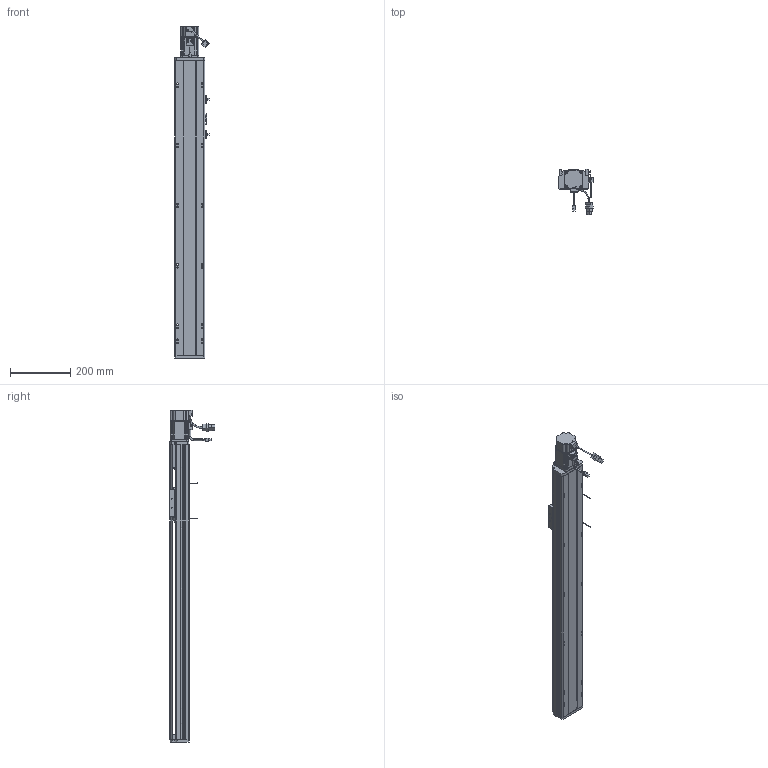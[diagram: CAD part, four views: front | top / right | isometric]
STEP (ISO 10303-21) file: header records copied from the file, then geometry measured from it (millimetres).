
FILE_DESCRIPTION (( 'STEP AP214' ), '1' );
FILE_NAME ('CTH10-750.STEP', '2019-11-18T08:14:24', ( '微软用户' ), ( '微软中国' ), 'SwSTEP 2.0', 'SolidWorks 2017', '' );
FILE_SCHEMA (( 'AUTOMOTIVE_DESIGN' ));
Length unit declared in the file: millimetre
Products named in the file (34): CTH10-750; CTH10-底座_默认<按加工>; CTH10-移动座_默认<按加工>; CTH10-蹟簽蟀諉啣; CTH10-盓傅釱; CTH10-傷啣; CTH10-侜督萇儂啣; SFH1605-288; SFH1605; CTH10-盖板_默认<按加工>; 怢湛200W侜督萇儂ECMA-CX0602ES; CTH10-粣創釱; BEARING_BaseModel20190604090351; 7001-DF; 粣創揤啣; COL12B-粣遠; 坶踡蹟譫; M4-L8囀鞠褒蹟佪; M3-L10囀鞠褒蹟佪; CTH10粣創釱蚾饜极; M5-L20囀鞠褒蹟佪; 遣喳蝶15x12x8; 6000Z粣創; M4-L6半圆头内六角螺丝; EE-SX672; M3-L8囀鞠褒蹟佪; 100耀郪-覜茼んえ; MGN12C; MGN12C-R1; MGN12C-2R420-Z0CHC; 噩砃M3-L10囀鞠褒蹟佪; 噩砃MGN12C; 噩砃MGN12C-R1; 噩砃MGN12C-2R420-Z0CHC
Assembly tree (100 placements, depth 4):
  CTH10-750
    CTH10-底座_默认<按加工>
    CTH10-移动座_默认<按加工>
    CTH10-蹟簽蟀諉啣
    CTH10-盓傅釱
    CTH10-傷啣
    CTH10-侜督萇儂啣
    SFH1605-288
    SFH1605
    CTH10-盖板_默认<按加工>
    怢湛200W侜督萇儂ECMA-CX0602ES
    CTH10粣創釱蚾饜极
      CTH10-粣創釱
      7001-DF
        BEARING_BaseModel20190604090351  x2
      粣創揤啣
      COL12B-粣遠  x2
      坶踡蹟譫
      M4-L8囀鞠褒蹟佪  x4
      M3-L10囀鞠褒蹟佪  x6
    M3-L10囀鞠褒蹟佪  x19
    M5-L20囀鞠褒蹟佪  x4
    遣喳蝶15x12x8  x3
    6000Z粣創
    M4-L6半圆头内六角螺丝  x4
    M4-L8囀鞠褒蹟佪  x8
    EE-SX672  x2
    M3-L8囀鞠褒蹟佪  x4
    100耀郪-覜茼んえ
    MGN12C-2R420-Z0CHC
      MGN12C
      MGN12C-R1  x2
      M3-L10囀鞠褒蹟佪  x8
    噩砃M3-L10囀鞠褒蹟佪
    噩砃MGN12C-2R420-Z0CHC
      噩砃MGN12C
      噩砃MGN12C-R1  x2
      噩砃M3-L10囀鞠褒蹟佪  x8
Bounding box: 114.24 x 151.37 x 1102 mm (x, y, z)
Volume: 2800218.7 mm3; surface area: 1043679.6 mm2
Topology: 96 solids, 105 shells, 4685 faces, 11862 edges, 7404 vertices
Faces by surface type: plane 2342, cylinder 1456, cone 601, bspline 241, torus 33, sphere 12
Entity records: 100064 total; most frequent: CARTESIAN_POINT 30378, ORIENTED_EDGE 14228, DIRECTION 13627, EDGE_CURVE 7114, AXIS2_PLACEMENT_3D 4874, VERTEX_POINT 4618, VECTOR 3879, LINE 3879
